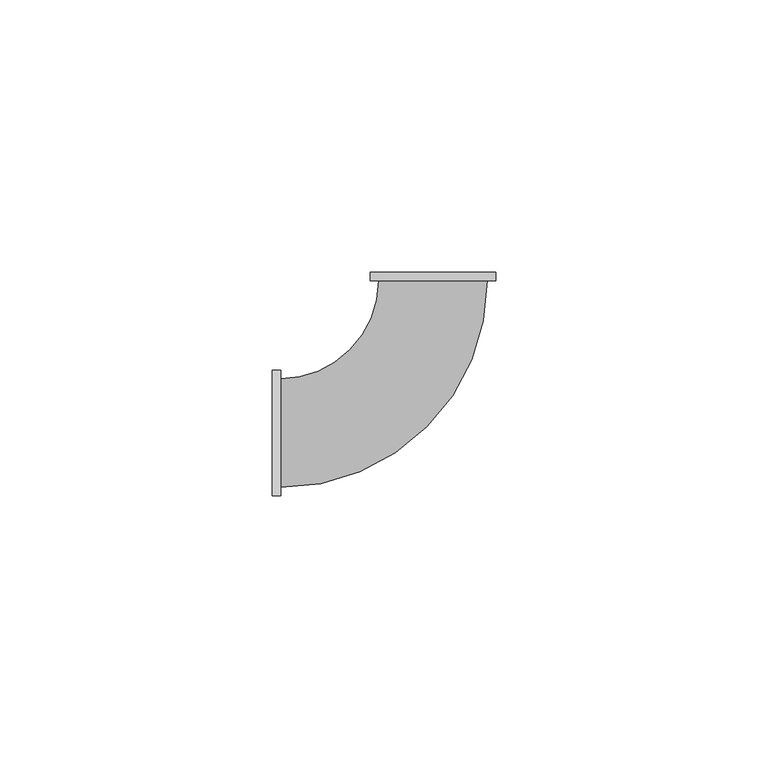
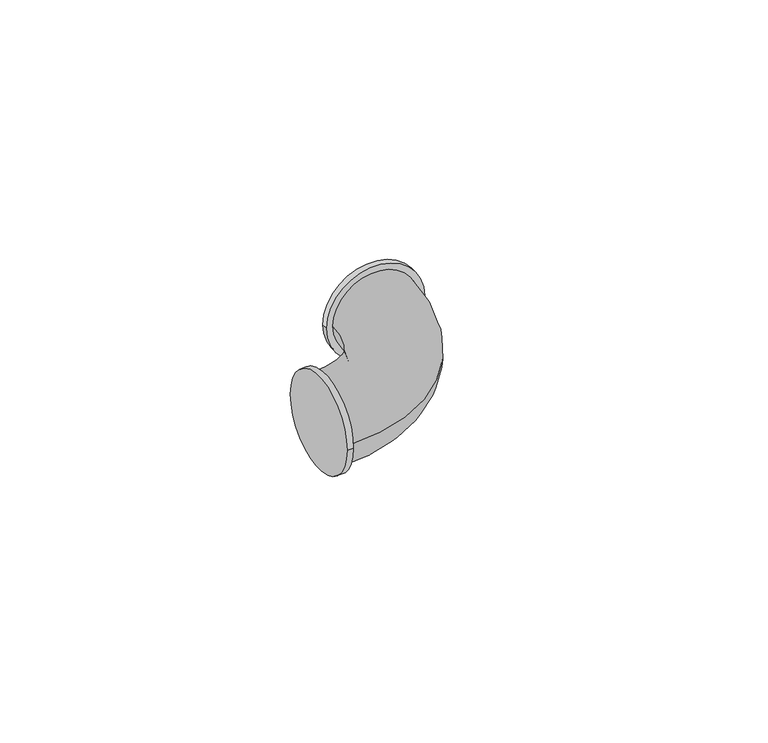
"""IFC4 building model written with IfcOpenShell, lengths in millimetres: pipe fitting geometry, ADSK_ЧугунРезьба_Угольник_ГОСТ8946-75 : Неоцинкованные."""

from ifc_helpers import new_model, si_unit, point, frame, origin, place, context, project, spatial, circle_curve, ellipse_curve, trimmed, source, transform, mapped, element, save
from ifc_brep_helpers import plane_surface, cylinder_surface, revolved_surface, advanced_brep


def pipe_fitting_6ad8f151(model_context):
    return source(origin(), model_context, "Body", "AdvancedBrep", [
        advanced_brep(
        [(11.5, 29.5, 0.0), (-11.5, 29.5, 0.0), (-28.0, -10.0, 0.0), (10.0, 28.0, 0.0), (-10.0, 28.0, 0.0), (-28.0, 10.0, 0.0), (-29.5, 11.5, 0.0), (-29.5, -11.5, 0.0), (-28.0, 11.5, 0.0), (-28.0, -11.5, 0.0), (11.5, 28.0, 0.0), (-11.5, 28.0, 0.0)],
        [
            (0, 1, circle_curve(frame((0.0, 29.5, 0.0), z_axis=(0.0, 1.0, 0.0), x_axis=(-1.0, 0.0, 0.0)), 11.5)),
            (1, 0, circle_curve(frame((0.0, 29.5, 0.0), z_axis=(0.0, 1.0, 0.0), x_axis=(-1.0, 0.0, 0.0)), 11.5)),
            (2, 3, circle_curve(frame((-28.0, 28.0, 0.0), z_axis=(0.0, 0.0, 1.0), x_axis=(1.0, 0.0, 0.0)), 38.0)),
            (3, 4, circle_curve(frame((0.0, 28.0, 0.0), z_axis=(0.0, -1.0, 0.0), x_axis=(1.0, 0.0, 0.0)), 10.0)),
            (4, 5, circle_curve(frame((-28.0, 28.0, 0.0), z_axis=(0.0, 0.0, -1.0), x_axis=(1.0, 0.0, 0.0)), 18.0)),
            (5, 2, circle_curve(frame((-28.0, 0.0, 0.0), z_axis=(1.0, 0.0, 0.0), x_axis=(0.0, -1.0, 0.0)), 10.0)),
            (2, 5, circle_curve(frame((-28.0, 0.0, 0.0), z_axis=(1.0, 0.0, 0.0), x_axis=(0.0, -1.0, 0.0)), 10.0)),
            (4, 3, circle_curve(frame((0.0, 28.0, 0.0), z_axis=(0.0, -1.0, 0.0), x_axis=(1.0, 0.0, 0.0)), 10.0)),
            (6, 7, circle_curve(frame((-29.5, 0.0, 0.0), z_axis=(-1.0, 0.0, 0.0), x_axis=(0.0, -1.0, 0.0)), 11.5)),
            (7, 6, circle_curve(frame((-29.5, 0.0, 0.0), z_axis=(-1.0, 0.0, 0.0), x_axis=(0.0, -1.0, 0.0)), 11.5)),
            (8, 9, circle_curve(frame((-28.0, 0.0, 0.0), z_axis=(1.0, 0.0, 0.0), x_axis=(0.0, -1.0, 0.0)), 11.5)),
            (9, 8, circle_curve(frame((-28.0, 0.0, 0.0), z_axis=(1.0, 0.0, 0.0), x_axis=(0.0, -1.0, 0.0)), 11.5)),
            (8, 6),
            (7, 9),
            (10, 11, circle_curve(frame((0.0, 28.0, 0.0), z_axis=(0.0, -1.0, 0.0), x_axis=(-1.0, 0.0, 0.0)), 11.5)),
            (11, 10, circle_curve(frame((0.0, 28.0, 0.0), z_axis=(0.0, -1.0, 0.0), x_axis=(-1.0, 0.0, 0.0)), 11.5)),
            (10, 0),
            (1, 11),
        ],
        [
            plane_surface(frame((0.0, 29.5, 0.0), z_axis=(0.0, 1.0, 0.0), x_axis=(0.0, 0.0, 1.0))),
            revolved_surface(trimmed(ellipse_curve(frame((0.0, 28.0, 0.0), z_axis=(0.0, 1.0, 0.0), x_axis=(1.0, 0.0, 0.0)), 10.0, 10.0), [point((-10.0, 28.0, 0.0))], [point((10.0, 28.0, 0.0))], True, "CARTESIAN"), (-28.0, 28.0, 0.0), (0.0, 0.0, -1.0)),
            revolved_surface(trimmed(ellipse_curve(frame((0.0, 28.0, 0.0), z_axis=(0.0, 1.0, 0.0), x_axis=(1.0, 0.0, 0.0)), 10.0, 10.0), [point((10.0, 28.0, 0.0))], [point((-10.0, 28.0, 0.0))], True, "CARTESIAN"), (-28.0, 28.0, 0.0), (0.0, 0.0, -1.0)),
            plane_surface(frame((-29.5, 0.0, 0.0), z_axis=(-1.0, 0.0, 0.0), x_axis=(0.0, 0.0, 1.0))),
            plane_surface(frame((-28.0, 0.0, 0.0), z_axis=(1.0, 0.0, 0.0), x_axis=(0.0, 0.0, 1.0))),
            cylinder_surface(frame((-28.0, 0.0, 0.0), z_axis=(1.0, 0.0, 0.0), x_axis=(0.0, -1.0, 0.0)), 11.5),
            plane_surface(frame((0.0, 28.0, 0.0), z_axis=(0.0, -1.0, 0.0), x_axis=(0.0, 0.0, 1.0))),
            cylinder_surface(frame((0.0, 28.0, 0.0), z_axis=(0.0, -1.0, 0.0), x_axis=(-1.0, 0.0, 0.0)), 11.5),
        ],
        [
            (0, [[1, 2]]),
            (1, [[3, 4, 5, 6]]),
            (2, [[-3, 7, -5, 8]]),
            (3, [[9, 10]]),
            (4, [[11, 12], [-6, -7]]),
            (5, [[-11, 13, -10, 14]]),
            (5, [[-12, -14, -9, -13]]),
            (6, [[15, 16], [-4, -8]]),
            (7, [[-15, 17, -2, 18]]),
            (7, [[-16, -18, -1, -17]]),
        ],
    ),
    ])


if __name__ == "__main__":
    model = new_model("IFC4")
    model_context = context("Model", 3, world=origin())
    ifc_project = project(units=[si_unit("LENGTHUNIT", "METRE", prefix="MILLI")], contexts=[model_context])
    site = spatial("IfcSite", under=ifc_project)
    building = spatial("IfcBuilding", under=site)
    placement = place(None, origin())
    pipe_fitting_shape = pipe_fitting_6ad8f151(model_context)
    element("IfcPipeFitting", 1, ObjectType="ADSK_ЧугунРезьба_Угольник_ГОСТ8946-75 : Неоцинкованные", at=placement, inside=building, context=model_context, shape_type="MappedRepresentation", body=[
        mapped(pipe_fitting_shape, transform((0.0, 0.0, 0.0), x_axis=(1.0, 0.0, 0.0), y_axis=(0.0, 1.0, 0.0), z_axis=(0.0, 0.0, 1.0))),
    ])
    save(model, "model.ifc")
